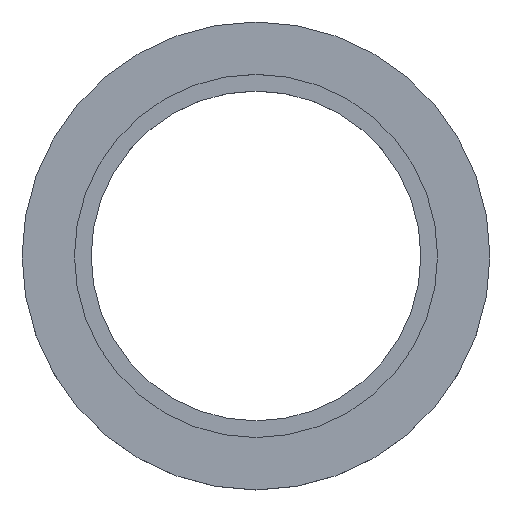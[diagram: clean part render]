
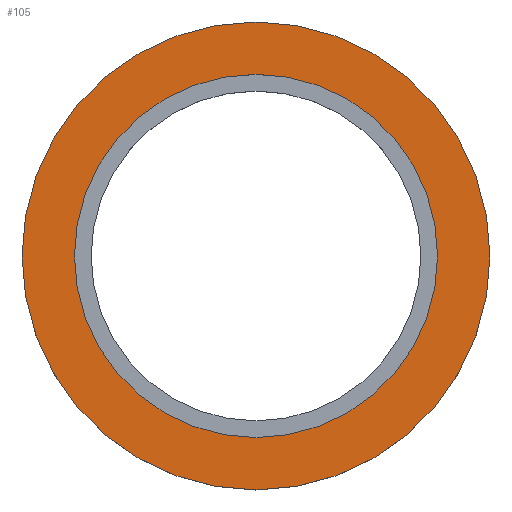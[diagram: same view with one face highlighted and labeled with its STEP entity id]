
A CAD part, top view. The second image highlights one B-rep face of the part: STEP entity #105.
In plain terms, the highlighted planar face has unit normal (0, 0, 1).
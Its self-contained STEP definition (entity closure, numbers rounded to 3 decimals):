
#21 = EDGE_CURVE('',#22,#22,#24,.T.);
#22 = VERTEX_POINT('',#23);
#23 = CARTESIAN_POINT('',(21.,0.,0.));
#24 = SURFACE_CURVE('',#25,(#30,#42),.PCURVE_S1.);
#25 = CIRCLE('',#26,21.);
#26 = AXIS2_PLACEMENT_3D('',#27,#28,#29);
#27 = CARTESIAN_POINT('',(0.,0.,0.));
#28 = DIRECTION('',(0.,0.,1.));
#29 = DIRECTION('',(1.,0.,-0.));
#30 = PCURVE('',#31,#36);
#31 = CYLINDRICAL_SURFACE('',#32,21.);
#32 = AXIS2_PLACEMENT_3D('',#33,#34,#35);
#33 = CARTESIAN_POINT('',(0.,0.,-4.));
#34 = DIRECTION('',(0.,0.,1.));
#35 = DIRECTION('',(1.,0.,-0.));
#36 = DEFINITIONAL_REPRESENTATION('',(#37),#41);
#37 = LINE('',#38,#39);
#38 = CARTESIAN_POINT('',(0.,4.));
#39 = VECTOR('',#40,1.);
#40 = DIRECTION('',(1.,0.));
#41 = ( GEOMETRIC_REPRESENTATION_CONTEXT(2) 
PARAMETRIC_REPRESENTATION_CONTEXT() REPRESENTATION_CONTEXT('2D SPACE',''
  ) );
#42 = PCURVE('',#43,#48);
#43 = PLANE('',#44);
#44 = AXIS2_PLACEMENT_3D('',#45,#46,#47);
#45 = CARTESIAN_POINT('',(0.,0.,0.));
#46 = DIRECTION('',(0.,0.,1.));
#47 = DIRECTION('',(1.,0.,-0.));
#48 = DEFINITIONAL_REPRESENTATION('',(#49),#53);
#49 = CIRCLE('',#50,21.);
#50 = AXIS2_PLACEMENT_2D('',#51,#52);
#51 = CARTESIAN_POINT('',(0.,0.));
#52 = DIRECTION('',(1.,0.));
#53 = ( GEOMETRIC_REPRESENTATION_CONTEXT(2) 
PARAMETRIC_REPRESENTATION_CONTEXT() REPRESENTATION_CONTEXT('2D SPACE',''
  ) );
#105 = ADVANCED_FACE('',(#106,#109),#43,.T.);
#106 = FACE_BOUND('',#107,.T.);
#107 = EDGE_LOOP('',(#108));
#108 = ORIENTED_EDGE('',*,*,#21,.T.);
#109 = FACE_BOUND('',#110,.T.);
#110 = EDGE_LOOP('',(#111));
#111 = ORIENTED_EDGE('',*,*,#112,.F.);
#112 = EDGE_CURVE('',#113,#113,#115,.T.);
#113 = VERTEX_POINT('',#114);
#114 = CARTESIAN_POINT('',(16.3,0.,0.));
#115 = SURFACE_CURVE('',#116,(#121,#128),.PCURVE_S1.);
#116 = CIRCLE('',#117,16.3);
#117 = AXIS2_PLACEMENT_3D('',#118,#119,#120);
#118 = CARTESIAN_POINT('',(0.,0.,0.));
#119 = DIRECTION('',(0.,0.,1.));
#120 = DIRECTION('',(1.,0.,-0.));
#121 = PCURVE('',#43,#122);
#122 = DEFINITIONAL_REPRESENTATION('',(#123),#127);
#123 = CIRCLE('',#124,16.3);
#124 = AXIS2_PLACEMENT_2D('',#125,#126);
#125 = CARTESIAN_POINT('',(0.,0.));
#126 = DIRECTION('',(1.,0.));
#127 = ( GEOMETRIC_REPRESENTATION_CONTEXT(2) 
PARAMETRIC_REPRESENTATION_CONTEXT() REPRESENTATION_CONTEXT('2D SPACE',''
  ) );
#128 = PCURVE('',#129,#134);
#129 = CYLINDRICAL_SURFACE('',#130,16.3);
#130 = AXIS2_PLACEMENT_3D('',#131,#132,#133);
#131 = CARTESIAN_POINT('',(0.,0.,-1.));
#132 = DIRECTION('',(0.,0.,1.));
#133 = DIRECTION('',(1.,0.,-0.));
#134 = DEFINITIONAL_REPRESENTATION('',(#135),#139);
#135 = LINE('',#136,#137);
#136 = CARTESIAN_POINT('',(0.,1.));
#137 = VECTOR('',#138,1.);
#138 = DIRECTION('',(1.,0.));
#139 = ( GEOMETRIC_REPRESENTATION_CONTEXT(2) 
PARAMETRIC_REPRESENTATION_CONTEXT() REPRESENTATION_CONTEXT('2D SPACE',''
  ) );
